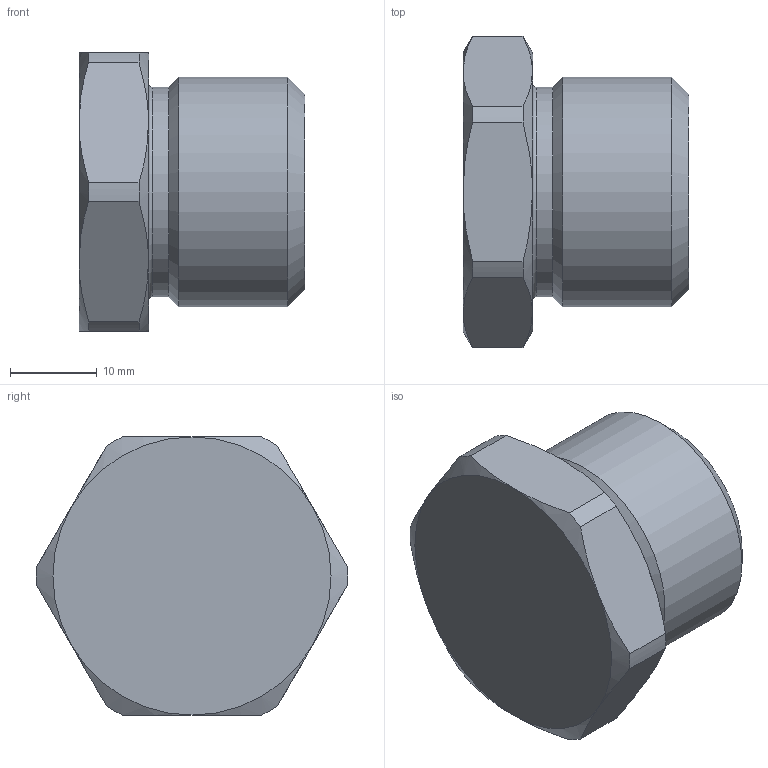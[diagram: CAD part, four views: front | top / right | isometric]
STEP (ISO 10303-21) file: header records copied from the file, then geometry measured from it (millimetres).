
FILE_DESCRIPTION((''),'2;1');
FILE_NAME('C:\Users\A.V.Nesterov\Desktop\111\3D\ТЗ\ТЗ 109309\ВЗН2GНК_3D.stp','2024-08-05T15:58:37',('A.V.Nesterov'),(''),'Autodesk Inventor 2012','Autodesk Inventor 2012','');
FILE_SCHEMA(('AUTOMOTIVE_DESIGN { 1 0 10303 214 1 1 1 1 }'));
Length unit declared in the file: millimetre
Products named in the file (1): ВЗН Заглушки Ц
Bounding box: 26 x 35.79 x 32 mm (x, y, z)
Volume: 10801.7 mm3; surface area: 5162.2 mm2
Topology: 1 solids, 1 shells, 35 faces, 77 edges, 46 vertices
Faces by surface type: cone 15, plane 10, cylinder 9, torus 1
Full cylindrical faces by diameter (mm): 20 x1, 24.1 x1, 26.441 x1
Entity records: 914 total; most frequent: CARTESIAN_POINT 198, DIRECTION 150, ORIENTED_EDGE 138, AXIS2_PLACEMENT_3D 69, EDGE_CURVE 69, VERTEX_POINT 45, EDGE_LOOP 44, FACE_OUTER_BOUND 35
